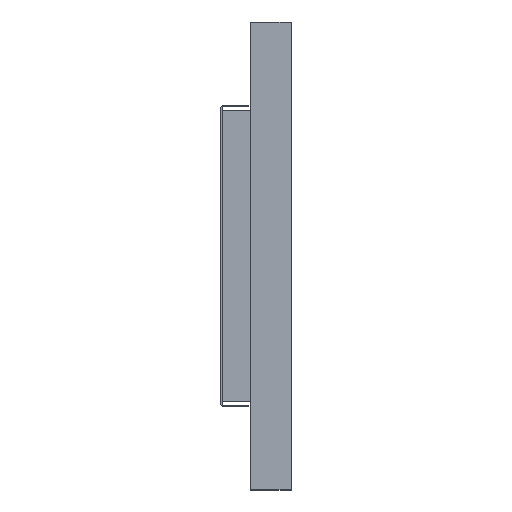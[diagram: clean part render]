
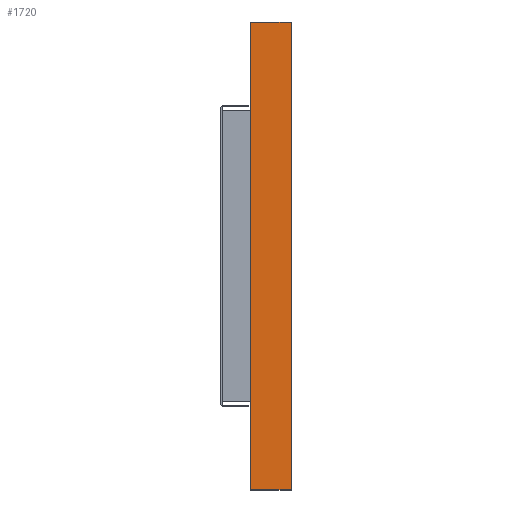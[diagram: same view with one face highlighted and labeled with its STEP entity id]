
A CAD part, left-side view. The second image highlights one B-rep face of the part: STEP entity #1720.
In plain terms, the highlighted planar face has unit normal (-1, 0, 0).
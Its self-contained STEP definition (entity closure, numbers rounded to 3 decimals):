
#118 = ORIENTED_EDGE ( 'NONE', *, *, #3872, .F. ) ;
#201 = FACE_OUTER_BOUND ( 'NONE', #4469, .T. ) ;
#618 = DIRECTION ( 'NONE',  ( 0., 0., 1. ) ) ;
#861 = DIRECTION ( 'NONE',  ( 0., -1., 0. ) ) ;
#952 = VERTEX_POINT ( 'NONE', #3177 ) ;
#971 = AXIS2_PLACEMENT_3D ( 'NONE', #1668, #4360, #3226 ) ;
#1229 = CARTESIAN_POINT ( 'NONE',  ( -258.592, -7.233, 36. ) ) ;
#1407 = LINE ( 'NONE', #2946, #4167 ) ;
#1624 = VERTEX_POINT ( 'NONE', #2301 ) ;
#1668 = CARTESIAN_POINT ( 'NONE',  ( -258.592, -7.233, -22. ) ) ;
#1692 = PLANE ( 'NONE',  #971 ) ;
#1720 = ADVANCED_FACE ( 'NONE', ( #201 ), #1692, .F. ) ;
#1733 = DIRECTION ( 'NONE',  ( 0., -1., 0. ) ) ;
#2039 = VECTOR ( 'NONE', #618, 1000. ) ;
#2301 = CARTESIAN_POINT ( 'NONE',  ( -258.592, -7.233, -22. ) ) ;
#2322 = LINE ( 'NONE', #3037, #4514 ) ;
#2644 = ORIENTED_EDGE ( 'NONE', *, *, #2731, .F. ) ;
#2731 = EDGE_CURVE ( 'NONE', #4865, #3753, #4581, .T. ) ;
#2873 = LINE ( 'NONE', #3984, #2039 ) ;
#2946 = CARTESIAN_POINT ( 'NONE',  ( -258.592, -7.233, -22. ) ) ;
#3037 = CARTESIAN_POINT ( 'NONE',  ( -258.592, -12.233, -22. ) ) ;
#3177 = CARTESIAN_POINT ( 'NONE',  ( -258.592, -12.233, -22. ) ) ;
#3226 = DIRECTION ( 'NONE',  ( 0., 0., -1. ) ) ;
#3232 = EDGE_CURVE ( 'NONE', #952, #3753, #2322, .T. ) ;
#3482 = DIRECTION ( 'NONE',  ( 0., 0., 1. ) ) ;
#3753 = VERTEX_POINT ( 'NONE', #4336 ) ;
#3872 = EDGE_CURVE ( 'NONE', #1624, #4865, #2873, .T. ) ;
#3900 = EDGE_CURVE ( 'NONE', #1624, #952, #1407, .T. ) ;
#3984 = CARTESIAN_POINT ( 'NONE',  ( -258.592, -7.233, -22. ) ) ;
#4083 = CARTESIAN_POINT ( 'NONE',  ( -258.592, -7.233, 36. ) ) ;
#4167 = VECTOR ( 'NONE', #1733, 1000. ) ;
#4336 = CARTESIAN_POINT ( 'NONE',  ( -258.592, -12.233, 36. ) ) ;
#4360 = DIRECTION ( 'NONE',  ( 1., 0., 0. ) ) ;
#4469 = EDGE_LOOP ( 'NONE', ( #4554, #2644, #118, #4689 ) ) ;
#4514 = VECTOR ( 'NONE', #3482, 1000. ) ;
#4554 = ORIENTED_EDGE ( 'NONE', *, *, #3232, .T. ) ;
#4581 = LINE ( 'NONE', #1229, #4724 ) ;
#4689 = ORIENTED_EDGE ( 'NONE', *, *, #3900, .T. ) ;
#4724 = VECTOR ( 'NONE', #861, 1000. ) ;
#4865 = VERTEX_POINT ( 'NONE', #4083 ) ;
